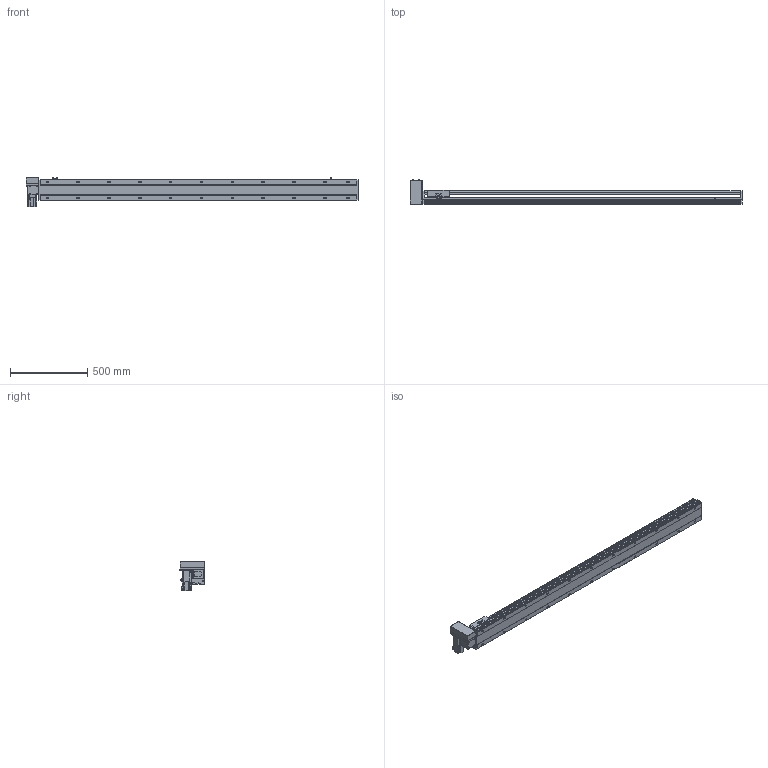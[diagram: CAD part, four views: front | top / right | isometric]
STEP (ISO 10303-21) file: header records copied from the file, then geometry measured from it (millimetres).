
FILE_DESCRIPTION(/* description */ ('STEP AP214'),/* implementation_level */ '2;1');
FILE_NAME(/* name */ 'PBS140S-P40-S1800-RU-T40-C1-N(0)',/* time_stamp */ '2022-06-09T02:55:59+02:00',/* author */ ('License CC BY-ND 4.0'),/* organization */ ('CADENAS'),/* preprocessor_version */ 'ST-DEVELOPER v18.102',/* originating_system */ 'PARTsolutions',/* authorisation */ ' ');
FILE_SCHEMA (('AUTOMOTIVE_DESIGN {1 0 10303 214 3 1 1}'));
Length unit declared in the file: millimetre
Products named in the file (7): PBS140S-P40-S1800-RU-T40-C1-N(0); PBS140S_sensor; PBS140S_plant; PBS140S_sliser; T40-p1; PBS140ST-RU_motors; PBS140S-S1800()_body
Assembly tree (8 placements, depth 2):
  PBS140S-P40-S1800-RU-T40-C1-N(0)
    PBS140S_sensor  x3
    PBS140S_plant
    PBS140S_sliser
    T40-p1
    PBS140ST-RU_motors
    PBS140S-S1800()_body
Bounding box: 2154 x 162.5 x 189.7 mm (x, y, z)
Volume: 10682840.3 mm3; surface area: 1815061.5 mm2
Topology: 8 solids, 8 shells, 1147 faces, 3031 edges, 1983 vertices
Faces by surface type: plane 720, cylinder 369, cone 48, sphere 8, torus 2
Full cylindrical faces by diameter (mm): 3.242 x4, 4 x2, 4.134 x4, 4.4 x8, 4.5 x2, 4.8 x4, 4.917 x30, 5.5 x7, 6 x2, 7 x24, 7.5 x8, 8 x12, 8.5 x4, 10.5 x22, 14 x1, 30 x2, 50 x2
Entity records: 32870 total; most frequent: CARTESIAN_POINT 6152, DIRECTION 5558, ORIENTED_EDGE 5242, EDGE_CURVE 2621, AXIS2_PLACEMENT_3D 1949, VERTEX_POINT 1825, LINE 1660, VECTOR 1660
